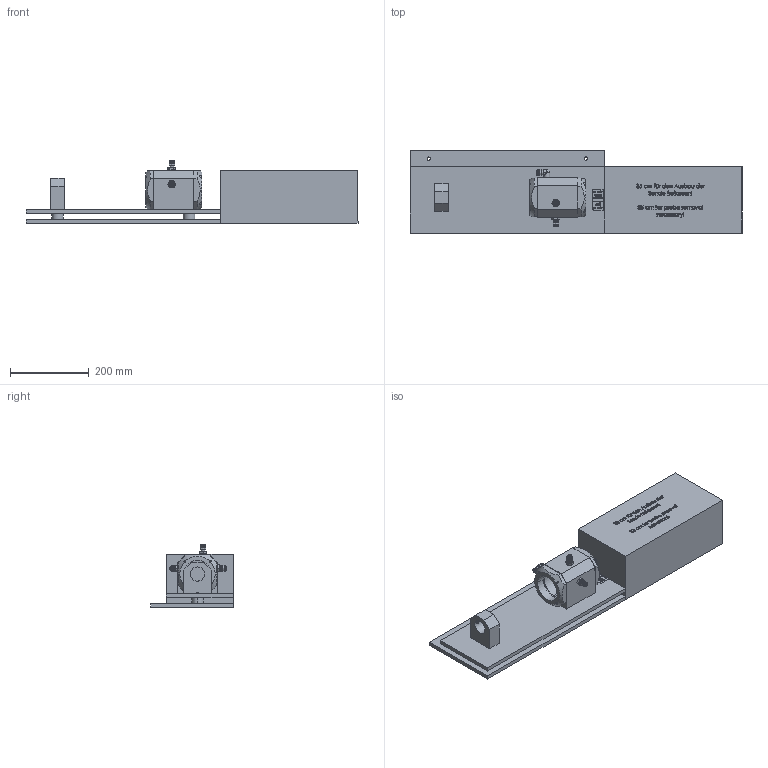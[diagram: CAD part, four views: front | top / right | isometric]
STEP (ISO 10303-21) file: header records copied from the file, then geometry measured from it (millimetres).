
FILE_DESCRIPTION (( 'STEP AP203' ), '1' );
FILE_NAME ('LZX868_TD_00000__001.STEP', '2023-04-28T06:57:39', ( '' ), ( '' ), 'SwSTEP 2.0', 'SolidWorks 2022', '' );
FILE_SCHEMA (( 'CONFIG_CONTROL_DESIGN' ));
Length unit declared in the file: millimetre
Products named in the file (17): LZX869-001_Freiraum Ein-Ausbau; countersunk flat head cross recess screw_iso_ISO 7046-1 - M5 x 20 - Z --- 20N; EXA058_Winkel-Einschraubverschraubung; LZX868_TD_00000__001; HRR169_Druckring 2; HPM025_Montageplatte; HVQ811_Messkammer; EZD169_O-Ring 70,00 x 5,00 - EPDM 70; EXA070_Einschraubverschraubung, weiß; HPP526_Anschlagplatte; HDH676_Hinweisschild; countersunk flat head cross recess screw_iso_ISO 7046-1 - M6 x 35 - Z - 35N; HRR168_Druckring 1; NNG002_Zylinderschraube mit Innensechskant; HRB163_Distanzbuchse; BVQ847_Durchflußeinheit; HPM024_Trägerplatte
Assembly tree (28 placements, depth 3):
  LZX868_TD_00000__001
    BVQ847_Durchflußeinheit
      HPM025_Montageplatte
      HPP526_Anschlagplatte
      HVQ811_Messkammer
      HRR168_Druckring 1
      EZD169_O-Ring 70,00 x 5,00 - EPDM 70  x2
      HRR169_Druckring 2
      EXA058_Winkel-Einschraubverschraubung
      EXA070_Einschraubverschraubung, weiß  x2
      HRB163_Distanzbuchse  x2
      HPM024_Trägerplatte
      HDH676_Hinweisschild
      NNG002_Zylinderschraube mit Innensechskant  x4
      countersunk flat head cross recess screw_iso_ISO 7046-1 - M6 x 35 - Z - 35N  x2
      countersunk flat head cross recess screw_iso_ISO 7046-1 - M5 x 20 - Z --- 20N  x6
    LZX869-001_Freiraum Ein-Ausbau
Bounding box: 845 x 210 x 160 mm (x, y, z)
Volume: 10844912.1 mm3; surface area: 859053.3 mm2
Topology: 27 solids, 27 shells, 3720 faces, 9708 edges, 6319 vertices
Faces by surface type: plane 1596, bspline 1554, cylinder 286, cone 186, sphere 50, torus 48
Entity records: 174487 total; most frequent: CARTESIAN_POINT 100516, ORIENTED_EDGE 17518, DIRECTION 9676, EDGE_CURVE 8759, VERTEX_POINT 5778, VECTOR 4980, LINE 4980, EDGE_LOOP 3691
